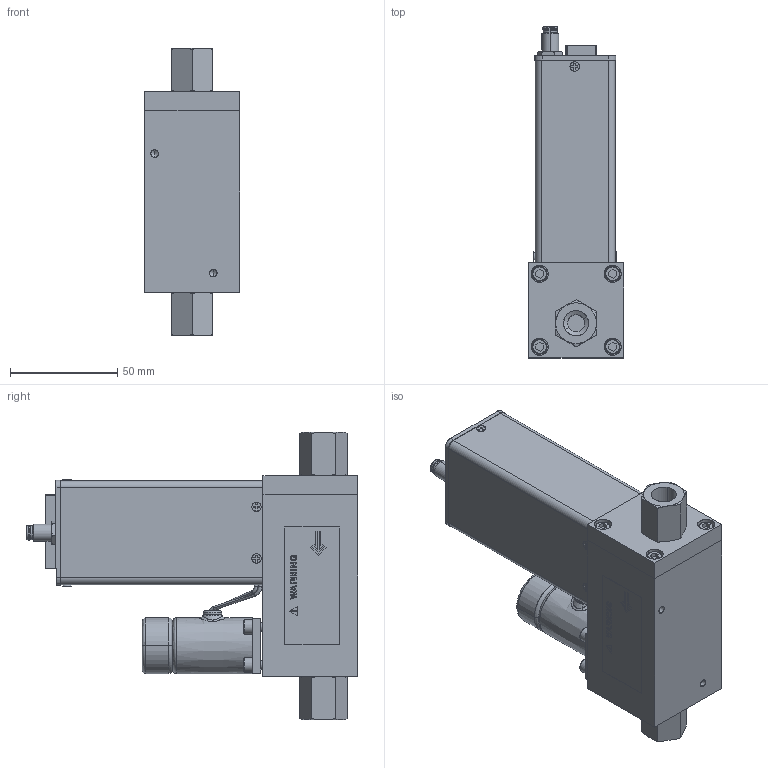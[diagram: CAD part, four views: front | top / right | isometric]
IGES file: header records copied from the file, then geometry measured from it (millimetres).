
Start section: SolidWorks IGES file using analytic representation for surfaces
Global section: file name: G:\Engineering\CAD MODELS FOR SALES\CAD MODEL STORAGE\SLA\SLA5851\CUSTOMER FILES\IGES\SLA5851-8-IT-1-A-REVB.IGS; native system: SolidWorks 2023; preprocessor: SolidWorks 2023; author: CFehr; date: 240321.081154; units: inch
Bounding box: 44.3 x 154.44 x 133.75 mm (x, y, z)
Surface area: 121896.7 mm2 (no closed solid volume)
Topology: 0 solids, 0 shells, 2367 faces, 22726 edges, 22632 vertices
Faces by surface type: bspline 1615, revolution 752
